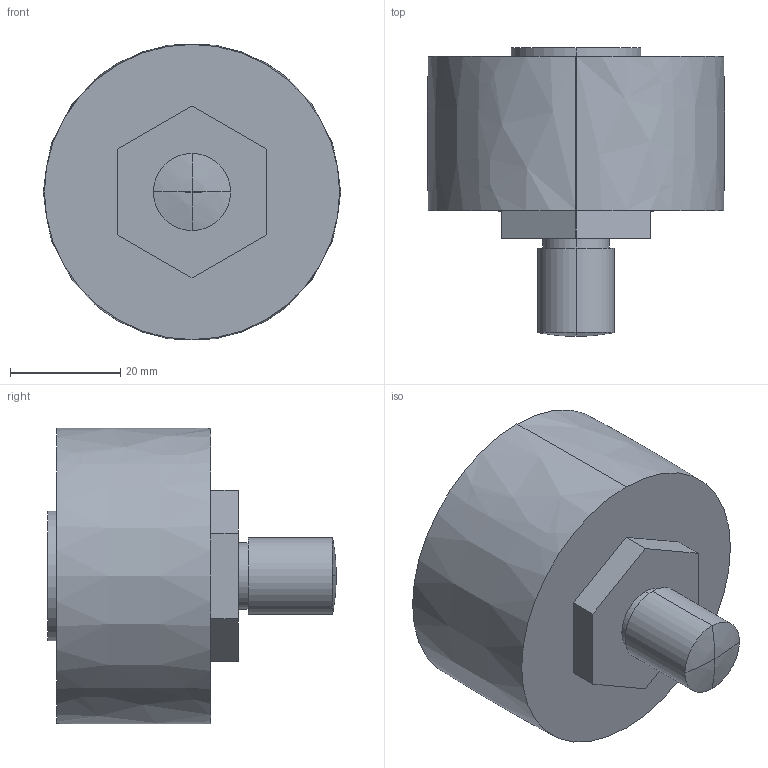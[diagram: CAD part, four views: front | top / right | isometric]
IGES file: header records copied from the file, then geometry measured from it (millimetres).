
Start section: 3D InterOp IGES (v. 2019 1.0.2), Spatial Corp. Copyright (c) 1999-2017.
Global section: file name: BHR 54 C.igs; native system: Spatial Corp.; preprocessor: 3D InterOp GENERIC/IGES 3.0; author: Noname; organization: Noname; date: 20220628.172229; units: millimetre
Bounding box: 53.96 x 52.4 x 53.61 mm (x, y, z)
Surface area: 10880 mm2 (no closed solid volume)
Topology: 0 solids, 0 shells, 30 faces, 136 edges, 132 vertices
Faces by surface type: extrusion 18, revolution 10, bspline 2
